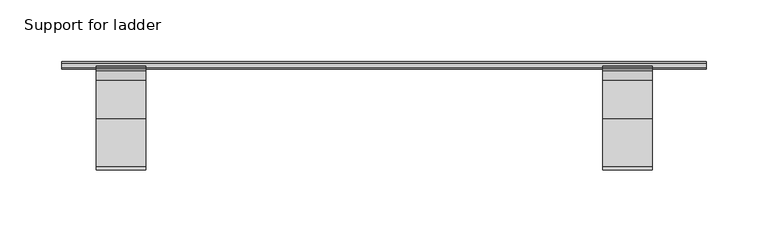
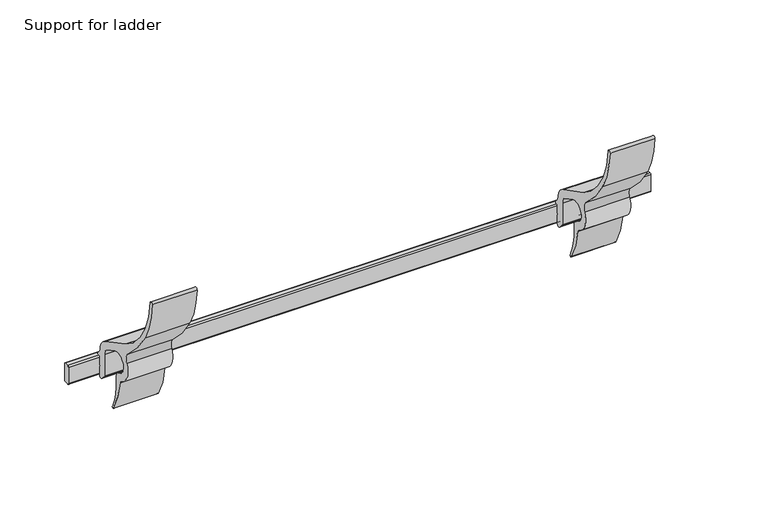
"""IFC4 building model written with IfcOpenShell, lengths in millimetres: proxy geometry, GROVIK_Special_Ladder Support : Support for ladder."""

from ifc_helpers import new_model, si_unit, point, frame, frame_2d, origin, place, context, project, spatial, polyline, circle_curve, trimmed, segment, composite_curve, outline, extrude, source, transform, mapped, element, save


def support_for_ladder_32d1af20(model_context):
    return source(origin(), model_context, "Body", "SweptSolid", [
        extrude(outline(composite_curve([segment(polyline([(-88.8471133, -28.8400648), (-92.8471133, -25.1949601)]), True, "CONTINUOUS"), segment(trimmed(circle_curve(frame_2d((-91.5, -23.7166889)), 2.0), [point((-92.8471133, -25.1949601))], [point((-93.5, -23.7166889))], False, "CARTESIAN"), True, "CONTINUOUS"), segment(polyline([(-93.5, -23.7166889), (-93.5, -3.2356846)]), True, "CONTINUOUS"), segment(trimmed(circle_curve(frame_2d((-101.0037926, -3.2356846)), 7.5037926), [point((-93.5, -3.2356846))], [point((-97.5572751, 3.4297802))], True, "CARTESIAN"), True, "CONTINUOUS"), segment(polyline([(-97.5572751, 3.4297802), (-109.7875493, 9.7536984)]), True, "CONTINUOUS"), segment(trimmed(circle_curve(frame_2d((-113.9171148, 1.7672387)), 8.9909315), [point((-109.7875493, 9.7536984))], [point((-118.0466803, -6.2192211))], True, "CARTESIAN"), True, "CONTINUOUS"), segment(polyline([(-118.0466803, -6.2192211), (-114.2022475, -8.2070652)]), True, "CONTINUOUS"), segment(trimmed(circle_curve(frame_2d((-116.4943388, -12.6399034)), 4.9903644), [point((-114.2022475, -8.2070652))], [point((-111.5376282, -13.2184852))], False, "CARTESIAN"), True, "CONTINUOUS"), segment(trimmed(circle_curve(frame_2d((-49.9949065, -18.251373)), 61.7481705), [point((-111.5376282, -13.2184852))], [point((-105.5379542, -45.2292604))], True, "CARTESIAN"), True, "CONTINUOUS"), segment(trimmed(circle_curve(frame_2d((-106.2006523, -45.6248433)), 0.7717867), [point((-105.5379542, -45.2292604))], [point((-106.8633504, -46.0204262))], False, "CARTESIAN"), True, "CONTINUOUS"), segment(trimmed(circle_curve(frame_2d((-39.5899225, -5.8630493)), 78.3474889), [point((-106.8633504, -46.0204262))], [point((-117.3173707, -15.7003669))], False, "CARTESIAN"), True, "CONTINUOUS"), segment(trimmed(circle_curve(frame_2d((-120.6430681, -16.1212728)), 3.3522268), [point((-117.3173707, -15.7003669))], [point((-119.4203712, -12.999985))], True, "CARTESIAN"), True, "CONTINUOUS"), segment(trimmed(circle_curve(frame_2d((-113.6599333, 1.7052001)), 15.7931983), [point((-119.4203712, -12.999985))], [point((-127.6668738, 9.0011395))], False, "CARTESIAN"), True, "CONTINUOUS"), segment(trimmed(circle_curve(frame_2d((-134.7881022, 12.7104472)), 8.0293747), [point((-127.6668738, 9.0011395))], [point((-129.5776299, 18.8196072))], True, "CARTESIAN"), True, "CONTINUOUS"), segment(trimmed(circle_curve(frame_2d((-48.079421, 114.3743997)), 125.5893165), [point((-129.5776299, 18.8196072))], [point((-155.977544, 50.1040995))], False, "CARTESIAN"), True, "CONTINUOUS"), segment(trimmed(circle_curve(frame_2d((-79.3112333, 92.7675806)), 87.7376533), [point((-155.977544, 50.1040995))], [point((-166.928938, 88.1813361))], False, "CARTESIAN"), True, "CONTINUOUS"), segment(trimmed(circle_curve(frame_2d((-165.4250855, 88.2600534)), 1.5059113), [point((-166.928938, 88.1813361))], [point((-163.9212329, 88.3387708))], False, "CARTESIAN"), True, "CONTINUOUS"), segment(trimmed(circle_curve(frame_2d((-87.2314624, 92.3530056)), 76.7947589), [point((-163.9212329, 88.3387708))], [point((-125.2458357, 25.6271305))], True, "CARTESIAN"), True, "CONTINUOUS"), segment(polyline([(-125.2458357, 25.6271305), (-94.3246835, 9.6387043)]), True, "CONTINUOUS"), segment(trimmed(circle_curve(frame_2d((-100.3951082, -2.8639535)), 13.8984355), [point((-94.3246835, 9.6387043))], [point((-86.5088177, -2.283055))], False, "CARTESIAN"), True, "CONTINUOUS"), segment(trimmed(circle_curve(frame_2d((-81.5376396, -2.0750981)), 4.9755259), [point((-86.5088177, -2.283055))], [point((-85.0125484, -5.6361185))], True, "CARTESIAN"), True, "CONTINUOUS"), segment(polyline([(-85.0125484, -5.6361185), (-83.5968592, -7.0175739)]), True, "CONTINUOUS"), segment(trimmed(circle_curve(frame_2d((-84.9789782, -8.4339431)), 1.9789782), [point((-83.5968592, -7.0175739))], [point((-83.0, -8.4339431))], False, "CARTESIAN"), True, "CONTINUOUS"), segment(polyline([(-83.0, -8.4339431), (-83.0, -9.6), (-85.5, -9.6), (-85.5, -17.4350044), (-86.2, -18.6), (-85.5, -19.7649956), (-85.5, -27.3617936)]), True, "CONTINUOUS"), segment(trimmed(circle_curve(frame_2d((-87.5, -27.3617936)), 2.0), [point((-85.5, -27.3617936))], [point((-88.8471133, -28.8400648))], False, "CARTESIAN"), True, "CONTINUOUS")], self_intersect=False)), frame((176.6319399, 0.0, 0.0), z_axis=(1.0, 0.0, 0.0), x_axis=(0.0, 1.0, 0.0)), (0.0, 0.0, 1.0), 40.0),
        extrude(outline(composite_curve([segment(polyline([(-88.8471133, -28.8400648), (-92.8471133, -25.1949601)]), True, "CONTINUOUS"), segment(trimmed(circle_curve(frame_2d((-91.5, -23.7166889)), 2.0), [point((-92.8471133, -25.1949601))], [point((-93.5, -23.7166889))], False, "CARTESIAN"), True, "CONTINUOUS"), segment(polyline([(-93.5, -23.7166889), (-93.5, -3.2356846)]), True, "CONTINUOUS"), segment(trimmed(circle_curve(frame_2d((-101.0037926, -3.2356846)), 7.5037926), [point((-93.5, -3.2356846))], [point((-97.5572751, 3.4297802))], True, "CARTESIAN"), True, "CONTINUOUS"), segment(polyline([(-97.5572751, 3.4297802), (-109.7875493, 9.7536984)]), True, "CONTINUOUS"), segment(trimmed(circle_curve(frame_2d((-113.9171148, 1.7672387)), 8.9909315), [point((-109.7875493, 9.7536984))], [point((-118.0466803, -6.2192211))], True, "CARTESIAN"), True, "CONTINUOUS"), segment(polyline([(-118.0466803, -6.2192211), (-114.2022475, -8.2070652)]), True, "CONTINUOUS"), segment(trimmed(circle_curve(frame_2d((-116.4943388, -12.6399034)), 4.9903644), [point((-114.2022475, -8.2070652))], [point((-111.5376282, -13.2184852))], False, "CARTESIAN"), True, "CONTINUOUS"), segment(trimmed(circle_curve(frame_2d((-49.9949065, -18.251373)), 61.7481705), [point((-111.5376282, -13.2184852))], [point((-105.5379542, -45.2292604))], True, "CARTESIAN"), True, "CONTINUOUS"), segment(trimmed(circle_curve(frame_2d((-106.2006523, -45.6248433)), 0.7717867), [point((-105.5379542, -45.2292604))], [point((-106.8633504, -46.0204262))], False, "CARTESIAN"), True, "CONTINUOUS"), segment(trimmed(circle_curve(frame_2d((-39.5899225, -5.8630493)), 78.3474889), [point((-106.8633504, -46.0204262))], [point((-117.3173707, -15.7003669))], False, "CARTESIAN"), True, "CONTINUOUS"), segment(trimmed(circle_curve(frame_2d((-120.6430681, -16.1212728)), 3.3522268), [point((-117.3173707, -15.7003669))], [point((-119.4203712, -12.999985))], True, "CARTESIAN"), True, "CONTINUOUS"), segment(trimmed(circle_curve(frame_2d((-113.6599333, 1.7052001)), 15.7931983), [point((-119.4203712, -12.999985))], [point((-127.6668738, 9.0011395))], False, "CARTESIAN"), True, "CONTINUOUS"), segment(trimmed(circle_curve(frame_2d((-134.7881022, 12.7104472)), 8.0293747), [point((-127.6668738, 9.0011395))], [point((-129.5776299, 18.8196072))], True, "CARTESIAN"), True, "CONTINUOUS"), segment(trimmed(circle_curve(frame_2d((-48.079421, 114.3743997)), 125.5893165), [point((-129.5776299, 18.8196072))], [point((-155.977544, 50.1040995))], False, "CARTESIAN"), True, "CONTINUOUS"), segment(trimmed(circle_curve(frame_2d((-79.3112333, 92.7675806)), 87.7376533), [point((-155.977544, 50.1040995))], [point((-166.928938, 88.1813361))], False, "CARTESIAN"), True, "CONTINUOUS"), segment(trimmed(circle_curve(frame_2d((-165.4250855, 88.2600534)), 1.5059113), [point((-166.928938, 88.1813361))], [point((-163.9212329, 88.3387708))], False, "CARTESIAN"), True, "CONTINUOUS"), segment(trimmed(circle_curve(frame_2d((-87.2314624, 92.3530056)), 76.7947589), [point((-163.9212329, 88.3387708))], [point((-125.2458357, 25.6271305))], True, "CARTESIAN"), True, "CONTINUOUS"), segment(polyline([(-125.2458357, 25.6271305), (-94.3246835, 9.6387043)]), True, "CONTINUOUS"), segment(trimmed(circle_curve(frame_2d((-100.3951082, -2.8639535)), 13.8984355), [point((-94.3246835, 9.6387043))], [point((-86.5088177, -2.283055))], False, "CARTESIAN"), True, "CONTINUOUS"), segment(trimmed(circle_curve(frame_2d((-81.5376396, -2.0750981)), 4.9755259), [point((-86.5088177, -2.283055))], [point((-85.0125484, -5.6361185))], True, "CARTESIAN"), True, "CONTINUOUS"), segment(polyline([(-85.0125484, -5.6361185), (-83.5968592, -7.0175739)]), True, "CONTINUOUS"), segment(trimmed(circle_curve(frame_2d((-84.9789782, -8.4339431)), 1.9789782), [point((-83.5968592, -7.0175739))], [point((-83.0, -8.4339431))], False, "CARTESIAN"), True, "CONTINUOUS"), segment(polyline([(-83.0, -8.4339431), (-83.0, -9.6), (-85.5, -9.6), (-85.5, -17.4350044), (-86.2, -18.6), (-85.5, -19.7649956), (-85.5, -27.3617936)]), True, "CONTINUOUS"), segment(trimmed(circle_curve(frame_2d((-87.5, -27.3617936)), 2.0), [point((-85.5, -27.3617936))], [point((-88.8471133, -28.8400648))], False, "CARTESIAN"), True, "CONTINUOUS")], self_intersect=False)), frame((-232.2531179, 0.0, 0.0), z_axis=(1.0, 0.0, 0.0), x_axis=(0.0, 1.0, 0.0)), (0.0, 0.0, 1.0), 40.0),
        extrude(outline(composite_curve([segment(polyline([(-84.5, -9.6), (-80.5, -9.6)]), True, "CONTINUOUS"), segment(trimmed(circle_curve(frame_2d((-80.5, -10.6)), 1.0), [point((-80.5, -9.6))], [point((-79.5, -10.6))], False, "CARTESIAN"), True, "CONTINUOUS"), segment(polyline([(-79.5, -10.6), (-79.5, -26.1)]), True, "CONTINUOUS"), segment(trimmed(circle_curve(frame_2d((-80.5, -26.1)), 1.0), [point((-79.5, -26.1))], [point((-80.5, -27.1))], False, "CARTESIAN"), True, "CONTINUOUS"), segment(polyline([(-80.5, -27.1), (-84.5, -27.1)]), True, "CONTINUOUS"), segment(trimmed(circle_curve(frame_2d((-84.5, -26.1)), 1.0), [point((-84.5, -27.1))], [point((-85.5, -26.1))], False, "CARTESIAN"), True, "CONTINUOUS"), segment(polyline([(-85.5, -26.1), (-85.5, -10.6)]), True, "CONTINUOUS"), segment(trimmed(circle_curve(frame_2d((-84.5, -10.6)), 1.0), [point((-85.5, -10.6))], [point((-84.5, -9.6))], False, "CARTESIAN"), True, "CONTINUOUS")], self_intersect=False)), frame((-260.0, 0.0, 0.0), z_axis=(1.0, 0.0, 0.0), x_axis=(0.0, 1.0, 0.0)), (0.0, 0.0, 1.0), 520.0),
    ])


if __name__ == "__main__":
    model = new_model("IFC4")
    model_context = context("Model", 3, world=origin())
    ifc_project = project(units=[si_unit("LENGTHUNIT", "METRE", prefix="MILLI")], contexts=[model_context])
    site = spatial("IfcSite", under=ifc_project)
    building = spatial("IfcBuilding", under=site)
    placement = place(None, origin())
    support_for_ladder_shape = support_for_ladder_32d1af20(model_context)
    element("IfcBuildingElementProxy", 1, Name="GROVIK_Special_Ladder Support : Support for ladder", ObjectType="GROVIK_Special_Ladder Support : Support for ladder", at=placement, inside=building, context=model_context, shape_type="MappedRepresentation", body=[
        mapped(support_for_ladder_shape, transform((0.0, 0.0, 0.0), x_axis=(1.0, 0.0, 0.0), y_axis=(0.0, 1.0, 0.0), z_axis=(0.0, 0.0, 1.0))),
    ])
    save(model, "model.ifc")
